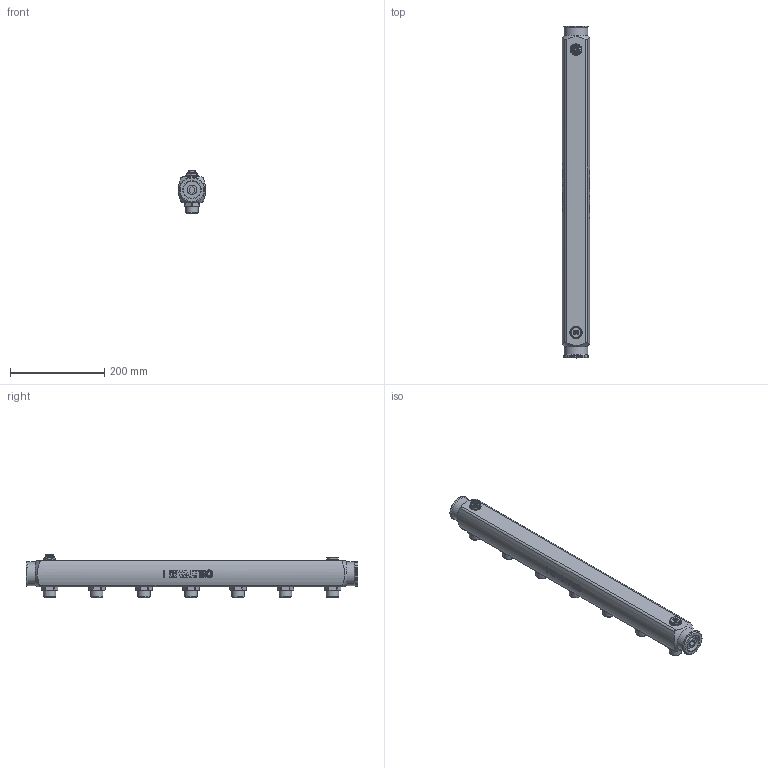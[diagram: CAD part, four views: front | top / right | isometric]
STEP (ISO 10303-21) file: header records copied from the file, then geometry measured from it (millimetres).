
FILE_DESCRIPTION(('STEP AP203'), '1');
FILE_NAME('VTc.510.SS.080507', '', ('UNSPECIFIED'), ('UNSPECIFIED'), 'C3D Converter', 'C3D Toolkit', '');
FILE_SCHEMA(('CONFIG_CONTROL_DESIGN'));
Length unit declared in the file: millimetre
Bounding box: 58 x 704 x 91.6 mm (x, y, z)
Volume: 2037711.3 mm3; surface area: 177182.5 mm2
Topology: 1 solids, 5 shells, 960 faces, 2422 edges, 1549 vertices
Faces by surface type: plane 386, extrusion 216, cylinder 155, cone 137, bspline 50, torus 16
Full cylindrical faces by diameter (mm): 5 x1, 10.2 x1, 19.5 x7, 20 x1, 22 x1, 24 x1, 26 x1, 26.441 x7, 37 x1, 44.85 x1, 50 x2, 54 x3
Entity records: 52806 total; most frequent: CARTESIAN_POINT 32328, ORIENTED_EDGE 4626, DIRECTION 3299, EDGE_CURVE 2313, VERTEX_POINT 1526, VECTOR 1143, B_SPLINE_CURVE_WITH_KNOTS 1127, AXIS2_PLACEMENT_3D 1078
